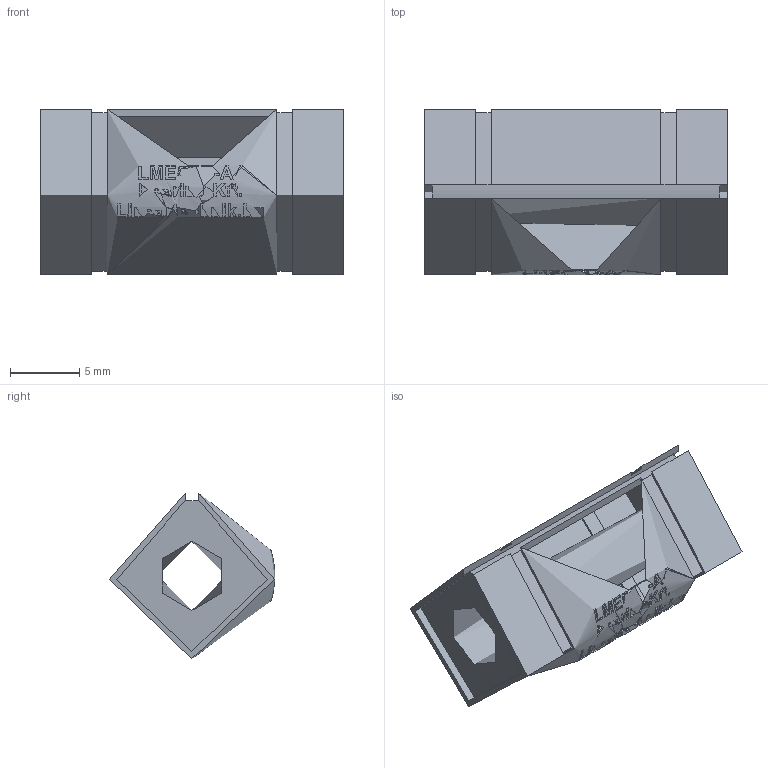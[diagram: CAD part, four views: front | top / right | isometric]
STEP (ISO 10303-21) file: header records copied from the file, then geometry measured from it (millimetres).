
FILE_DESCRIPTION(/* description */ (''),/* implementation_level */ '2;1');
FILE_NAME(/* name */ 'LME5UU-AJ',/* time_stamp */ '2019-07-02T12:06:21+02:00',/* author */ ('VĂ©gh MĂˇtĂ©'),/* organization */ ('Bearing Kft'),/* preprocessor_version */ 'ST-DEVELOPER v16.7',/* originating_system */ 'DEX',/* authorisation */ $);
FILE_SCHEMA (('AUTOMOTIVE_DESIGN { 1 0 10303 214 3 1 1 }','TECHNICAL_DATA_PACKAGING','AUTOMOTIVE_DESIGN {1 0 10303 214 3 1 1}'));
Length unit declared in the file: millimetre
Products named in the file (1): LME5UU-AJ
Bounding box: 22 x 11.99 x 11.98 mm (x, y, z)
Topology: 0 solids, 3 shells, 340 faces, 871 edges, 582 vertices
Faces by surface type: plane 182, bspline 101, cylinder 57
Full cylindrical faces by diameter (mm): 5 x1, 11.8 x1
Entity records: 15065 total; most frequent: CARTESIAN_POINT 7329, ORIENTED_EDGE 1730, DIRECTION 1303, EDGE_CURVE 865, VERTEX_POINT 577, LINE 495, VECTOR 495, AXIS2_PLACEMENT_3D 404
